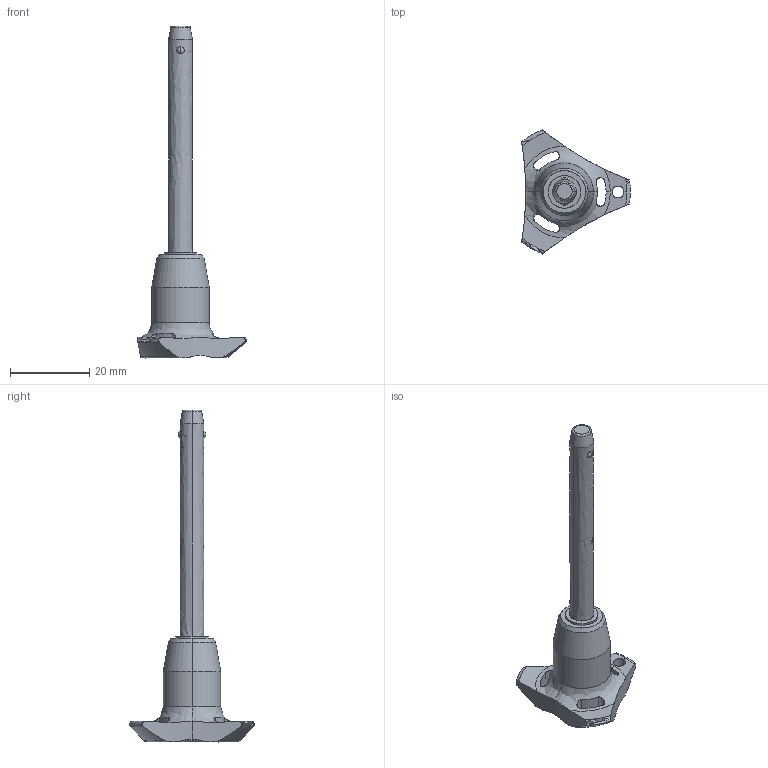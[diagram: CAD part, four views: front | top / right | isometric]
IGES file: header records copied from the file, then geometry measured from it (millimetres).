
Start section: SolidWorks IGES file using analytic representation for surfaces
Global section: file name: C:\Users\ianosborn\Desktop\QR1704_v2\QR1704_v2_20251111_IGES\QR1704.M06-050-S.igs; native system: SolidWorks 2019; preprocessor: SolidWorks 2019; author: IanOsborn; date: 251112.091404; units: millimetre
Bounding box: 27.4 x 31.31 x 83.7 mm (x, y, z)
Surface area: 3495.4 mm2 (no closed solid volume)
Topology: 0 solids, 0 shells, 66 faces, 1251 edges, 1232 vertices
Faces by surface type: revolution 50, bspline 16
